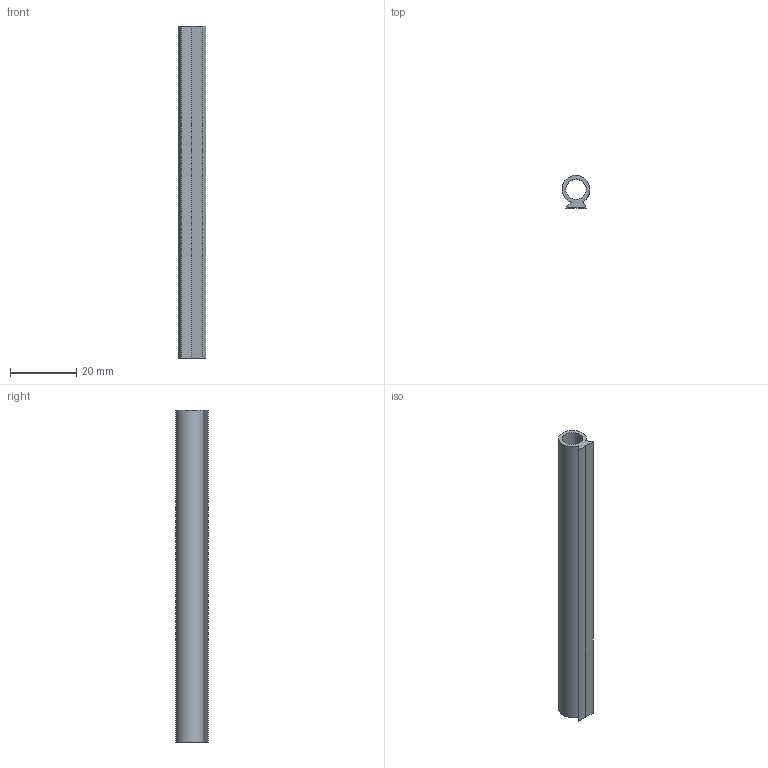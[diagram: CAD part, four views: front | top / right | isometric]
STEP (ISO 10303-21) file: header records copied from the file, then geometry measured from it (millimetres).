
FILE_DESCRIPTION (( 'STEP AP214' ), '1' );
FILE_NAME ('F50652.step', '2024-12-03T16:17:43', ( '' ), ( '' ), 'SwSTEP 2.0', 'SolidWorks 2023', '' );
FILE_SCHEMA (( 'AUTOMOTIVE_DESIGN' ));
Length unit declared in the file: millimetre
Products named in the file (1): F50652
Bounding box: 8.39 x 9.86 x 100 mm (x, y, z)
Volume: 3271.9 mm3; surface area: 5401.7 mm2
Topology: 1 solids, 1 shells, 8 faces, 18 edges, 12 vertices
Faces by surface type: plane 6, cylinder 2
Full cylindrical faces by diameter (mm): 6.2 x1
Entity records: 248 total; most frequent: DIRECTION 39, CARTESIAN_POINT 38, ORIENTED_EDGE 34, EDGE_CURVE 17, LINE 13, VECTOR 13, AXIS2_PLACEMENT_3D 13, VERTEX_POINT 12
